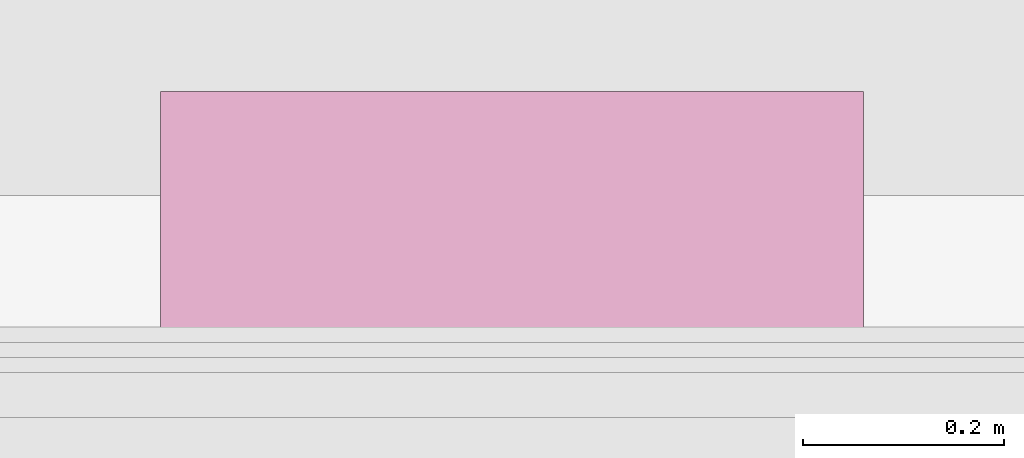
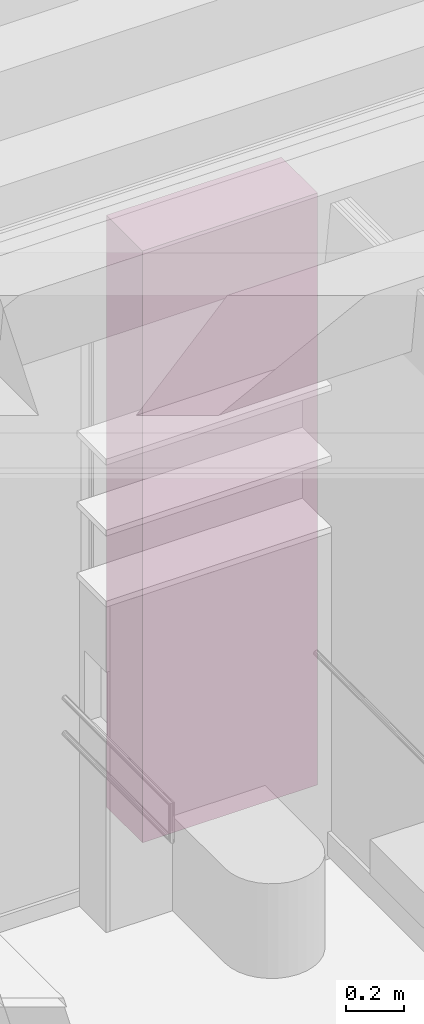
# One storey, part 103 of 106: 1 furnishing.
"""IFC2X3 building model written with IfcOpenShell, lengths in metres."""

from ifc_helpers import new_model, entity, si_unit, converted_unit, derived_unit, money_unit, direction, frame, frame_2d, origin_with_axes, place, context, subcontext, project, spatial, rectangle, extrude, type_object, element, save


model = new_model("IFC2X3")

# Units and contexts
model_context = context("Model", 3, precision=1e-05, world=origin_with_axes(), true_north=direction((0.0, 1.0)))
body_context = subcontext(model_context, "Body", "Model", "MODEL_VIEW", scale=1.0)
ifc_project = project(units=[si_unit("LENGTHUNIT", "METRE"), si_unit("AREAUNIT", "SQUARE_METRE"), si_unit("VOLUMEUNIT", "CUBIC_METRE"), si_unit("ABSORBEDDOSEUNIT", "GRAY"), si_unit("AMOUNTOFSUBSTANCEUNIT", "MOLE"), si_unit("DOSEEQUIVALENTUNIT", "SIEVERT"), si_unit("ELECTRICCAPACITANCEUNIT", "FARAD"), si_unit("ELECTRICCHARGEUNIT", "COULOMB"), si_unit("ELECTRICCONDUCTANCEUNIT", "SIEMENS"), si_unit("ELECTRICCURRENTUNIT", "AMPERE"), si_unit("ELECTRICRESISTANCEUNIT", "OHM"), si_unit("ELECTRICVOLTAGEUNIT", "VOLT"), si_unit("ENERGYUNIT", "JOULE"), si_unit("FORCEUNIT", "NEWTON"), si_unit("FREQUENCYUNIT", "HERTZ"), si_unit("ILLUMINANCEUNIT", "LUX"), si_unit("INDUCTANCEUNIT", "HENRY"), si_unit("LUMINOUSFLUXUNIT", "LUMEN"), si_unit("LUMINOUSINTENSITYUNIT", "CANDELA"), si_unit("MAGNETICFLUXDENSITYUNIT", "TESLA"), si_unit("MAGNETICFLUXUNIT", "WEBER"), si_unit("MASSUNIT", "GRAM"), converted_unit("PLANEANGLEUNIT", "degree", entity("IfcReal", 0.0174532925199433), si_unit("PLANEANGLEUNIT", "RADIAN"), dimensions=[0, 0, 0, 0, 0, 0, 0]), si_unit("POWERUNIT", "WATT"), si_unit("PRESSUREUNIT", "PASCAL"), si_unit("RADIOACTIVITYUNIT", "BECQUEREL"), si_unit("SOLIDANGLEUNIT", "STERADIAN"), si_unit("THERMODYNAMICTEMPERATUREUNIT", "KELVIN"), si_unit("TIMEUNIT", "SECOND"), derived_unit("ACCELERATIONUNIT", [(si_unit("LENGTHUNIT", "METRE"), 1), (si_unit("TIMEUNIT", "SECOND"), -2)]), derived_unit("ANGULARVELOCITYUNIT", [(converted_unit("PLANEANGLEUNIT", "degree", entity("IfcReal", 0.0174532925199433), si_unit("PLANEANGLEUNIT", "RADIAN"), dimensions=[0, 0, 0, 0, 0, 0, 0]), 1), (si_unit("TIMEUNIT", "SECOND"), -1)]), derived_unit("CURVATUREUNIT", [(converted_unit("PLANEANGLEUNIT", "degree", entity("IfcReal", 0.0174532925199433), si_unit("PLANEANGLEUNIT", "RADIAN"), dimensions=[0, 0, 0, 0, 0, 0, 0]), 1), (si_unit("LENGTHUNIT", "METRE"), -1)]), derived_unit("DYNAMICVISCOSITYUNIT", [(si_unit("PRESSUREUNIT", "PASCAL"), 1), (si_unit("TIMEUNIT", "SECOND"), 1)]), derived_unit("HEATFLUXDENSITYUNIT", [(si_unit("POWERUNIT", "WATT"), 1), (si_unit("LENGTHUNIT", "METRE"), -2)]), derived_unit("HEATINGVALUEUNIT", [(si_unit("ENERGYUNIT", "JOULE"), 1), (si_unit("MASSUNIT", "GRAM"), -1)]), derived_unit("INTEGERCOUNTRATEUNIT", [(si_unit("TIMEUNIT", "SECOND"), -1)]), derived_unit("IONCONCENTRATIONUNIT", [(si_unit("MASSUNIT", "GRAM"), 1), (si_unit("VOLUMEUNIT", "CUBIC_METRE"), -1)]), derived_unit("ISOTHERMALMOISTURECAPACITYUNIT", [(si_unit("VOLUMEUNIT", "CUBIC_METRE"), 1), (si_unit("MASSUNIT", "GRAM"), -1)]), derived_unit("KINEMATICVISCOSITYUNIT", [(si_unit("AREAUNIT", "SQUARE_METRE"), 1), (si_unit("TIMEUNIT", "SECOND"), -1)]), derived_unit("LINEARFORCEUNIT", [(si_unit("FORCEUNIT", "NEWTON"), 1), (si_unit("LENGTHUNIT", "METRE"), -1)]), derived_unit("LINEARMOMENTUNIT", [(si_unit("FORCEUNIT", "NEWTON"), 1), (si_unit("LENGTHUNIT", "METRE"), -1)]), derived_unit("LINEARSTIFFNESSUNIT", [(si_unit("FORCEUNIT", "NEWTON"), 1), (si_unit("LENGTHUNIT", "METRE"), -1)]), derived_unit("LINEARVELOCITYUNIT", [(si_unit("LENGTHUNIT", "METRE"), 1), (si_unit("TIMEUNIT", "SECOND"), -1)]), derived_unit("LUMINOUSINTENSITYDISTRIBUTIONUNIT", [(si_unit("LUMINOUSINTENSITYUNIT", "CANDELA"), 1), (si_unit("LUMINOUSFLUXUNIT", "LUMEN"), -1)]), derived_unit("MASSDENSITYUNIT", [(si_unit("MASSUNIT", "GRAM"), 1), (si_unit("VOLUMEUNIT", "CUBIC_METRE"), -1)]), derived_unit("MASSFLOWRATEUNIT", [(si_unit("MASSUNIT", "GRAM"), 1), (si_unit("TIMEUNIT", "SECOND"), -1)]), derived_unit("MASSPERLENGTHUNIT", [(si_unit("MASSUNIT", "GRAM"), 1), (si_unit("LENGTHUNIT", "METRE"), -1)]), derived_unit("MODULUSOFELASTICITYUNIT", [(si_unit("FORCEUNIT", "NEWTON"), 1), (si_unit("AREAUNIT", "SQUARE_METRE"), -1)]), derived_unit("MODULUSOFLINEARSUBGRADEREACTIONUNIT", [(si_unit("FORCEUNIT", "NEWTON"), 1), (si_unit("LENGTHUNIT", "METRE"), -2)]), derived_unit("MODULUSOFROTATIONALSUBGRADEREACTIONUNIT", [(si_unit("FORCEUNIT", "NEWTON"), 1), (si_unit("LENGTHUNIT", "METRE"), 1)]), derived_unit("MODULUSOFSUBGRADEREACTIONUNIT", [(si_unit("FORCEUNIT", "NEWTON"), 1), (si_unit("VOLUMEUNIT", "CUBIC_METRE"), -1)]), derived_unit("MOISTUREDIFFUSIVITYUNIT", [(si_unit("VOLUMEUNIT", "CUBIC_METRE"), 1), (si_unit("TIMEUNIT", "SECOND"), -1)]), derived_unit("MOLECULARWEIGHTUNIT", [(si_unit("MASSUNIT", "GRAM"), 1), (si_unit("AMOUNTOFSUBSTANCEUNIT", "MOLE"), -1)]), derived_unit("PLANARFORCEUNIT", [(si_unit("FORCEUNIT", "NEWTON"), 1), (si_unit("LENGTHUNIT", "METRE"), -2)]), derived_unit("ROTATIONALFREQUENCYUNIT", [(si_unit("TIMEUNIT", "SECOND"), -1)]), derived_unit("ROTATIONALMASSUNIT", [(si_unit("MASSUNIT", "GRAM"), 1), (si_unit("LENGTHUNIT", "METRE"), 2)]), derived_unit("ROTATIONALSTIFFNESSUNIT", [(si_unit("FORCEUNIT", "NEWTON"), 1), (si_unit("LENGTHUNIT", "METRE"), 1), (converted_unit("PLANEANGLEUNIT", "degree", entity("IfcReal", 0.0174532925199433), si_unit("PLANEANGLEUNIT", "RADIAN"), dimensions=[0, 0, 0, 0, 0, 0, 0]), -1)]), derived_unit("SECTIONAREAINTEGRALUNIT", [(si_unit("LENGTHUNIT", "METRE"), 5)]), derived_unit("SECTIONMODULUSUNIT", [(si_unit("LENGTHUNIT", "METRE"), 3)]), derived_unit("SHEARMODULUSUNIT", [(si_unit("FORCEUNIT", "NEWTON"), 1), (si_unit("AREAUNIT", "SQUARE_METRE"), -1)]), derived_unit("SOUNDPOWERUNIT", [(si_unit("ENERGYUNIT", "JOULE"), 1), (si_unit("TIMEUNIT", "SECOND"), -1)]), derived_unit("SPECIFICHEATCAPACITYUNIT", [(si_unit("FORCEUNIT", "NEWTON"), 1), (si_unit("MASSUNIT", "GRAM"), -1), (si_unit("THERMODYNAMICTEMPERATUREUNIT", "KELVIN"), -1)]), derived_unit("TEMPERATUREGRADIENTUNIT", [(si_unit("THERMODYNAMICTEMPERATUREUNIT", "KELVIN"), 1), (si_unit("LENGTHUNIT", "METRE"), -1)]), derived_unit("THERMALADMITTANCEUNIT", [(si_unit("POWERUNIT", "WATT"), 1), (si_unit("AREAUNIT", "SQUARE_METRE"), -1), (si_unit("THERMODYNAMICTEMPERATUREUNIT", "KELVIN"), -1)]), derived_unit("THERMALCONDUCTANCEUNIT", [(si_unit("POWERUNIT", "WATT"), 1), (si_unit("LENGTHUNIT", "METRE"), -1), (si_unit("THERMODYNAMICTEMPERATUREUNIT", "KELVIN"), -1)]), derived_unit("THERMALEXPANSIONCOEFFICIENTUNIT", [(si_unit("THERMODYNAMICTEMPERATUREUNIT", "KELVIN"), -1)]), derived_unit("THERMALRESISTANCEUNIT", [(si_unit("AREAUNIT", "SQUARE_METRE"), 1), (si_unit("POWERUNIT", "WATT"), -1)]), derived_unit("THERMALTRANSMITTANCEUNIT", [(si_unit("POWERUNIT", "WATT"), 1), (si_unit("AREAUNIT", "SQUARE_METRE"), -1), (si_unit("THERMODYNAMICTEMPERATUREUNIT", "KELVIN"), -1)]), derived_unit("TORQUEUNIT", [(si_unit("FORCEUNIT", "NEWTON"), 1), (si_unit("LENGTHUNIT", "METRE"), 1)]), derived_unit("VAPORPERMEABILITYUNIT", [(si_unit("MASSUNIT", "GRAM"), 1), (si_unit("TIMEUNIT", "SECOND"), -1)]), derived_unit("VOLUMETRICFLOWRATEUNIT", [(si_unit("VOLUMEUNIT", "CUBIC_METRE"), 1), (si_unit("TIMEUNIT", "SECOND"), -1)]), derived_unit("WARPINGCONSTANTUNIT", [(si_unit("LENGTHUNIT", "METRE"), 6)]), derived_unit("WARPINGMOMENTUNIT", [(si_unit("FORCEUNIT", "NEWTON"), 1), (si_unit("LENGTHUNIT", "METRE"), 2)]), money_unit("GBP")], contexts=[model_context])

# Site, building, storey, space
site_placement = place(None, origin_with_axes())
site = spatial("IfcSite", under=ifc_project, at=site_placement, Name="Site", CompositionType="ELEMENT")
building_placement = place(site_placement, origin_with_axes())
building = spatial("IfcBuilding", under=site, at=building_placement, Name="Building01", CompositionType="ELEMENT")
storey_placement = place(building_placement, origin_with_axes())
storey = spatial("IfcBuildingStorey", under=building, at=storey_placement, Name="GF", CompositionType="ELEMENT", Elevation=0.0)
space_placement = place(storey_placement, frame((0.35286, 17.143647, 0.217025), z_axis=(0.0, 0.0, 1.0), x_axis=(1.0, 0.0, 0.0)))
space = spatial("IfcSpace", under=storey, at=space_placement, Name="corridor", CompositionType="ELEMENT", InteriorOrExteriorSpace="NOTDEFINED")

# Furnishing
furniture_type = type_object("IfcFurnitureType", Name="SHE_A-Cupboard_Electro")
furnishing_placement = place(storey_placement, frame((2.305692, 17.143647, 0.163), z_axis=(0.0, 0.0, 1.0), x_axis=(-1.0, 0.0, 0.0)))
element("IfcFurnishingElement", 1, at=furnishing_placement, inside=space, type_object=furniture_type, Name="01", ObjectType="SHE_A-Cupboard_Electro", context=body_context, shape_type="SweptSolid", body=[
    extrude(rectangle(XDim=0.25, YDim=0.7, at=frame_2d((0.35, -0.125), x_axis=(0.0, -1.0))), origin_with_axes(), (0.0, 0.0, 1.0), 2.5),
])

save(model, "model.ifc")
